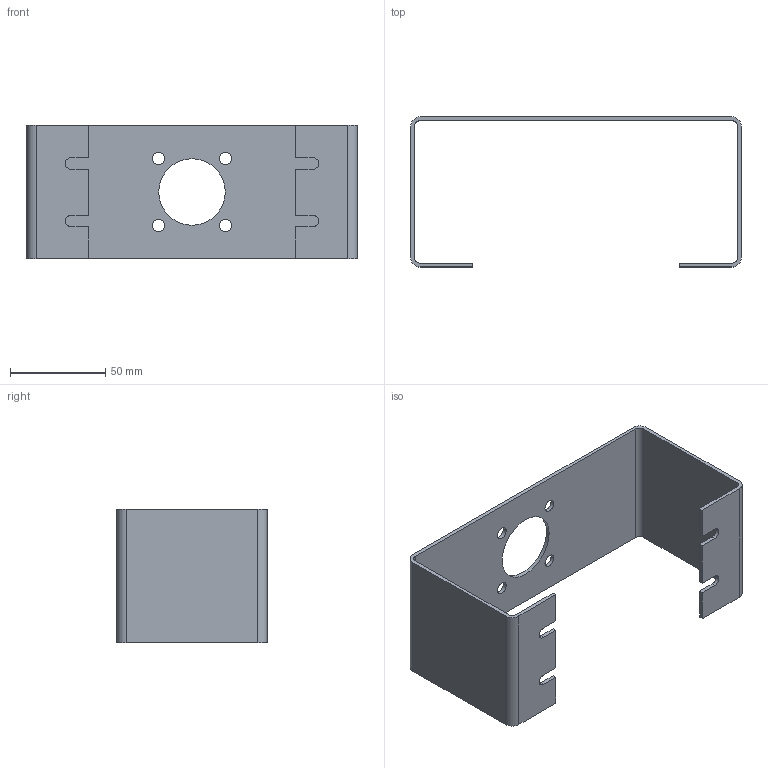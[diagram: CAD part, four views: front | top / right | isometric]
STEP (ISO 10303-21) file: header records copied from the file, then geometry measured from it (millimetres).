
FILE_DESCRIPTION((''),'2;1');
FILE_NAME('07943332','2015-05-06T',('DEX218155'),(''),'PRO/ENGINEER BY PARAMETRIC TECHNOLOGY CORPORATION, 2015030','PRO/ENGINEER BY PARAMETRIC TECHNOLOGY CORPORATION, 2015030','');
FILE_SCHEMA(('CONFIG_CONTROL_DESIGN'));
Length unit declared in the file: millimetre
Products named in the file (1): 07943332
Bounding box: 174 x 79 x 70 mm (x, y, z)
Volume: 50751.8 mm3; surface area: 53119 mm2
Topology: 1 solids, 1 shells, 48 faces, 138 edges, 92 vertices
Faces by surface type: plane 26, cylinder 22
Entity records: 1644 total; most frequent: DIRECTION 278, CARTESIAN_POINT 278, ORIENTED_EDGE 276, EDGE_CURVE 138, VECTOR 94, LINE 94, AXIS2_PLACEMENT_3D 92, VERTEX_POINT 92
